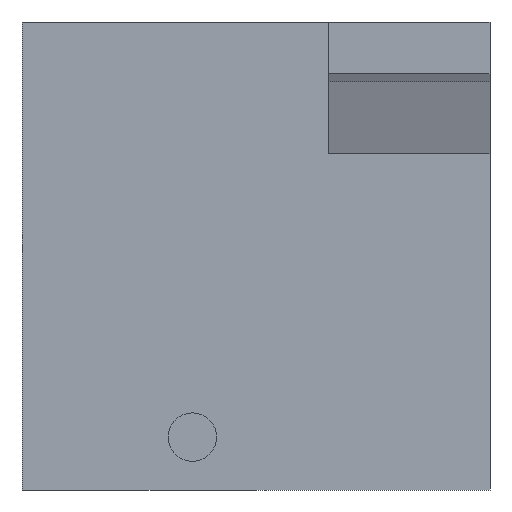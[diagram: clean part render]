
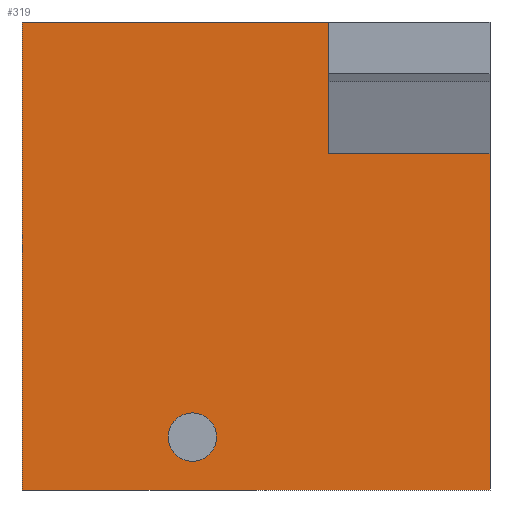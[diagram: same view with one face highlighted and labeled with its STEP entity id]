
A CAD part, left-side view. The second image highlights one B-rep face of the part: STEP entity #319.
In plain terms, the highlighted planar face has unit normal (-1, 0, 0).
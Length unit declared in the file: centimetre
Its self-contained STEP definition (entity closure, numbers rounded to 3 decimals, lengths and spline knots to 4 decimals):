
#7 = DIRECTION ( 'NONE',  ( 0., 0., -1. ) ) ;
#10 = CARTESIAN_POINT ( 'NONE',  ( 0., 1000., 1000. ) ) ;
#34 = FACE_OUTER_BOUND ( 'NONE', #610, .T. ) ;
#46 = CARTESIAN_POINT ( 'NONE',  ( 0., 1000., 1000. ) ) ;
#80 = VERTEX_POINT ( 'NONE', #282 ) ;
#88 = ORIENTED_EDGE ( 'NONE', *, *, #246, .F. ) ;
#89 = CARTESIAN_POINT ( 'NONE',  ( 0., 1000., 1000. ) ) ;
#96 = EDGE_CURVE ( 'NONE', #595, #472, #445, .T. ) ;
#111 = LINE ( 'NONE', #46, #132 ) ;
#126 = DIRECTION ( 'NONE',  ( -1., 0., 0. ) ) ;
#132 = VECTOR ( 'NONE', #278, 100. ) ;
#142 = ORIENTED_EDGE ( 'NONE', *, *, #477, .T. ) ;
#157 = DIRECTION ( 'NONE',  ( 0., 0., -1. ) ) ;
#168 = EDGE_CURVE ( 'NONE', #472, #333, #342, .T. ) ;
#170 = VECTOR ( 'NONE', #510, 100. ) ;
#202 = FACE_BOUND ( 'NONE', #416, .T. ) ;
#203 = CIRCLE ( 'NONE', #330, 51.6833 ) ;
#207 = ORIENTED_EDGE ( 'NONE', *, *, #460, .T. ) ;
#222 = DIRECTION ( 'NONE',  ( 0., 0., -1. ) ) ;
#226 = CARTESIAN_POINT ( 'NONE',  ( 0., 1000., 0. ) ) ;
#227 = CIRCLE ( 'NONE', #346, 51.6833 ) ;
#229 = ORIENTED_EDGE ( 'NONE', *, *, #738, .F. ) ;
#230 = LINE ( 'NONE', #686, #265 ) ;
#233 = CARTESIAN_POINT ( 'NONE',  ( 0., 636.0056, 113.0572 ) ) ;
#246 = EDGE_CURVE ( 'NONE', #476, #410, #227, .T. ) ;
#265 = VECTOR ( 'NONE', #7, 100. ) ;
#278 = DIRECTION ( 'NONE',  ( 0., 0., -1. ) ) ;
#282 = CARTESIAN_POINT ( 'NONE',  ( 0., 1000., 0. ) ) ;
#283 = DIRECTION ( 'NONE',  ( 0., -1., 0. ) ) ;
#285 = CARTESIAN_POINT ( 'NONE',  ( 0., 345.2964, 718.7913 ) ) ;
#305 = ORIENTED_EDGE ( 'NONE', *, *, #168, .F. ) ;
#309 = VERTEX_POINT ( 'NONE', #10 ) ;
#319 = ADVANCED_FACE ( 'NONE', ( #202, #34 ), #429, .F. ) ;
#323 = DIRECTION ( 'NONE',  ( 1., 0., 0. ) ) ;
#330 = AXIS2_PLACEMENT_3D ( 'NONE', #640, #126, #350 ) ;
#333 = VERTEX_POINT ( 'NONE', #661 ) ;
#334 = CARTESIAN_POINT ( 'NONE',  ( 0., 345.2964, 718.7913 ) ) ;
#342 = LINE ( 'NONE', #572, #170 ) ;
#346 = AXIS2_PLACEMENT_3D ( 'NONE', #233, #638, #582 ) ;
#350 = DIRECTION ( 'NONE',  ( 0., 0., 1. ) ) ;
#390 = CARTESIAN_POINT ( 'NONE',  ( 0., 1000., 1000. ) ) ;
#410 = VERTEX_POINT ( 'NONE', #552 ) ;
#416 = EDGE_LOOP ( 'NONE', ( #88, #229 ) ) ;
#429 = PLANE ( 'NONE',  #503 ) ;
#445 = LINE ( 'NONE', #285, #502 ) ;
#448 = CARTESIAN_POINT ( 'NONE',  ( 0., 636.0056, 164.7405 ) ) ;
#460 = EDGE_CURVE ( 'NONE', #80, #653, #627, .T. ) ;
#472 = VERTEX_POINT ( 'NONE', #334 ) ;
#476 = VERTEX_POINT ( 'NONE', #448 ) ;
#477 = EDGE_CURVE ( 'NONE', #309, #80, #111, .T. ) ;
#486 = EDGE_CURVE ( 'NONE', #309, #595, #508, .T. ) ;
#502 = VECTOR ( 'NONE', #222, 100. ) ;
#503 = AXIS2_PLACEMENT_3D ( 'NONE', #89, #323, #157 ) ;
#508 = LINE ( 'NONE', #390, #711 ) ;
#510 = DIRECTION ( 'NONE',  ( 0., -1., 0. ) ) ;
#512 = CARTESIAN_POINT ( 'NONE',  ( 0., 0., 0. ) ) ;
#523 = CARTESIAN_POINT ( 'NONE',  ( 0., 345.2964, 1000. ) ) ;
#552 = CARTESIAN_POINT ( 'NONE',  ( 0., 636.0056, 61.3739 ) ) ;
#572 = CARTESIAN_POINT ( 'NONE',  ( 0., 345.2964, 718.7913 ) ) ;
#582 = DIRECTION ( 'NONE',  ( 0., 0., 1. ) ) ;
#584 = ORIENTED_EDGE ( 'NONE', *, *, #596, .F. ) ;
#595 = VERTEX_POINT ( 'NONE', #523 ) ;
#596 = EDGE_CURVE ( 'NONE', #333, #653, #230, .T. ) ;
#610 = EDGE_LOOP ( 'NONE', ( #584, #305, #710, #681, #142, #207 ) ) ;
#618 = VECTOR ( 'NONE', #283, 100. ) ;
#627 = LINE ( 'NONE', #226, #618 ) ;
#638 = DIRECTION ( 'NONE',  ( -1., 0., 0. ) ) ;
#640 = CARTESIAN_POINT ( 'NONE',  ( 0., 636.0056, 113.0572 ) ) ;
#653 = VERTEX_POINT ( 'NONE', #512 ) ;
#661 = CARTESIAN_POINT ( 'NONE',  ( 0., 0., 718.7913 ) ) ;
#673 = DIRECTION ( 'NONE',  ( 0., -1., 0. ) ) ;
#681 = ORIENTED_EDGE ( 'NONE', *, *, #486, .F. ) ;
#686 = CARTESIAN_POINT ( 'NONE',  ( 0., 0., 1000. ) ) ;
#710 = ORIENTED_EDGE ( 'NONE', *, *, #96, .F. ) ;
#711 = VECTOR ( 'NONE', #673, 100. ) ;
#738 = EDGE_CURVE ( 'NONE', #410, #476, #203, .T. ) ;
